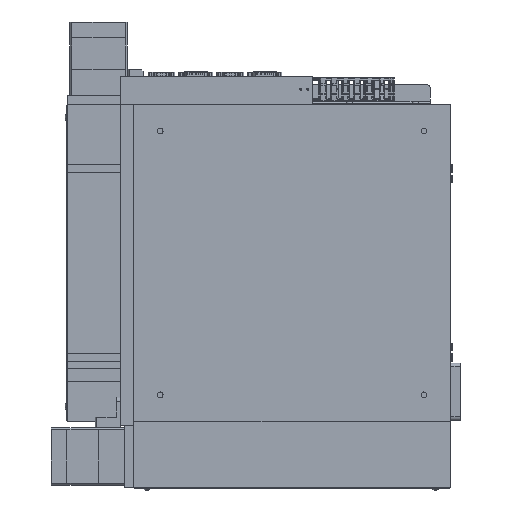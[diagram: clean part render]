
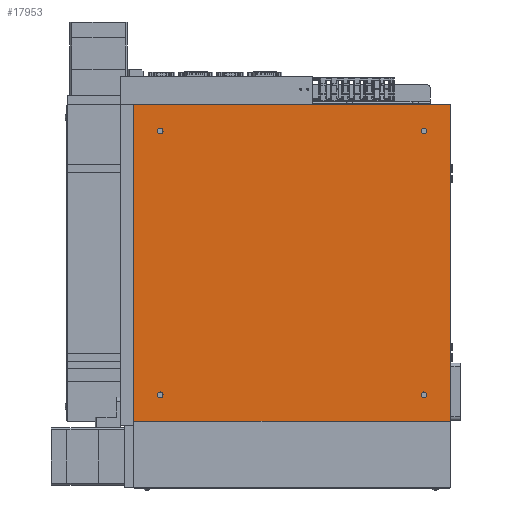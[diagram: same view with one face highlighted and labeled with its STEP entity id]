
A CAD part, front view. The second image highlights one B-rep face of the part: STEP entity #17953.
In plain terms, the highlighted planar face has unit normal (0, -1, 0).
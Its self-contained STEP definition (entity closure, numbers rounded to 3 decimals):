
#887 = DIRECTION ( 'NONE',  ( 0., 1., 0. ) ) ;
#1692 = FACE_BOUND ( 'NONE', #1725, .T. ) ;
#1725 = EDGE_LOOP ( 'NONE', ( #73610, #55872 ) ) ;
#2121 = CARTESIAN_POINT ( 'NONE',  ( -180., 0., -180. ) ) ;
#2720 = EDGE_LOOP ( 'NONE', ( #84886, #79170 ) ) ;
#3674 = DIRECTION ( 'NONE',  ( 0., 0., 1. ) ) ;
#3834 = AXIS2_PLACEMENT_3D ( 'NONE', #27263, #70763, #6737 ) ;
#4120 = AXIS2_PLACEMENT_3D ( 'NONE', #74239, #10483, #88584 ) ;
#4725 = PLANE ( 'NONE',  #67693 ) ;
#5030 = DIRECTION ( 'NONE',  ( 0., 1., 0. ) ) ;
#5103 = FACE_BOUND ( 'NONE', #2720, .T. ) ;
#5760 = EDGE_CURVE ( 'NONE', #91108, #53509, #18324, .T. ) ;
#6737 = DIRECTION ( 'NONE',  ( 0., 0., 1. ) ) ;
#8602 = ORIENTED_EDGE ( 'NONE', *, *, #57970, .F. ) ;
#10483 = DIRECTION ( 'NONE',  ( 0., 1., 0. ) ) ;
#12088 = VECTOR ( 'NONE', #73025, 1000. ) ;
#14625 = CARTESIAN_POINT ( 'NONE',  ( -150., 0., -150. ) ) ;
#16322 = VERTEX_POINT ( 'NONE', #57330 ) ;
#16339 = EDGE_LOOP ( 'NONE', ( #61210, #24141, #8602, #73705 ) ) ;
#16678 = CARTESIAN_POINT ( 'NONE',  ( 180., 0., -180. ) ) ;
#17213 = VECTOR ( 'NONE', #64508, 1000. ) ;
#17953 = ADVANCED_FACE ( 'NONE', ( #92240, #5103, #1692, #59913, #31863 ), #4725, .F. ) ;
#18324 = CIRCLE ( 'NONE', #64893, 3.3 ) ;
#21404 = EDGE_LOOP ( 'NONE', ( #38767, #58356 ) ) ;
#21938 = CARTESIAN_POINT ( 'NONE',  ( 150., 0., -150. ) ) ;
#21991 = CIRCLE ( 'NONE', #78274, 3.3 ) ;
#24141 = ORIENTED_EDGE ( 'NONE', *, *, #37797, .F. ) ;
#27263 = CARTESIAN_POINT ( 'NONE',  ( -150., 0., -150. ) ) ;
#27421 = VECTOR ( 'NONE', #39380, 1000. ) ;
#27549 = AXIS2_PLACEMENT_3D ( 'NONE', #40841, #69592, #33931 ) ;
#28190 = DIRECTION ( 'NONE',  ( 0., 1., 0. ) ) ;
#28450 = AXIS2_PLACEMENT_3D ( 'NONE', #21938, #28190, #49521 ) ;
#29985 = CARTESIAN_POINT ( 'NONE',  ( 150., 0., -150. ) ) ;
#31249 = EDGE_CURVE ( 'NONE', #45726, #74349, #53663, .T. ) ;
#31522 = ORIENTED_EDGE ( 'NONE', *, *, #5760, .T. ) ;
#31863 = FACE_OUTER_BOUND ( 'NONE', #16339, .T. ) ;
#32231 = LINE ( 'NONE', #2121, #12088 ) ;
#33022 = CIRCLE ( 'NONE', #28450, 3.3 ) ;
#33127 = VERTEX_POINT ( 'NONE', #16678 ) ;
#33931 = DIRECTION ( 'NONE',  ( 0., 0., 1. ) ) ;
#34437 = EDGE_CURVE ( 'NONE', #90949, #57998, #87465, .T. ) ;
#35730 = CARTESIAN_POINT ( 'NONE',  ( 150., 0., 150. ) ) ;
#35894 = CARTESIAN_POINT ( 'NONE',  ( -150., 0., 146.7 ) ) ;
#37797 = EDGE_CURVE ( 'NONE', #33127, #45726, #32231, .T. ) ;
#38131 = DIRECTION ( 'NONE',  ( 0., 1., 0. ) ) ;
#38767 = ORIENTED_EDGE ( 'NONE', *, *, #51781, .T. ) ;
#39152 = AXIS2_PLACEMENT_3D ( 'NONE', #14625, #887, #50899 ) ;
#39380 = DIRECTION ( 'NONE',  ( 0., 0., -1. ) ) ;
#40281 = CARTESIAN_POINT ( 'NONE',  ( -150., 0., 153.3 ) ) ;
#40841 = CARTESIAN_POINT ( 'NONE',  ( -150., 0., 150. ) ) ;
#45726 = VERTEX_POINT ( 'NONE', #86467 ) ;
#46200 = VERTEX_POINT ( 'NONE', #70769 ) ;
#46231 = EDGE_CURVE ( 'NONE', #82679, #65896, #33022, .T. ) ;
#47758 = CARTESIAN_POINT ( 'NONE',  ( 180., 0., -180. ) ) ;
#47803 = CARTESIAN_POINT ( 'NONE',  ( 0., 0., 0. ) ) ;
#49521 = DIRECTION ( 'NONE',  ( 0., 0., 1. ) ) ;
#49890 = CIRCLE ( 'NONE', #39152, 3.3 ) ;
#50121 = DIRECTION ( 'NONE',  ( 0., 1., 0. ) ) ;
#50899 = DIRECTION ( 'NONE',  ( 0., 0., 1. ) ) ;
#51781 = EDGE_CURVE ( 'NONE', #57998, #90949, #86991, .T. ) ;
#52204 = DIRECTION ( 'NONE',  ( 0., 0., 1. ) ) ;
#53144 = EDGE_CURVE ( 'NONE', #46200, #16322, #49890, .T. ) ;
#53509 = VERTEX_POINT ( 'NONE', #64556 ) ;
#53663 = LINE ( 'NONE', #86743, #59336 ) ;
#55872 = ORIENTED_EDGE ( 'NONE', *, *, #85991, .T. ) ;
#57330 = CARTESIAN_POINT ( 'NONE',  ( -150., 0., -146.7 ) ) ;
#57970 = EDGE_CURVE ( 'NONE', #91520, #33127, #71080, .T. ) ;
#57998 = VERTEX_POINT ( 'NONE', #40281 ) ;
#58267 = DIRECTION ( 'NONE',  ( 0., 0., 1. ) ) ;
#58356 = ORIENTED_EDGE ( 'NONE', *, *, #34437, .T. ) ;
#58616 = EDGE_CURVE ( 'NONE', #16322, #46200, #87653, .T. ) ;
#59266 = CIRCLE ( 'NONE', #4120, 3.3 ) ;
#59336 = VECTOR ( 'NONE', #65818, 1000. ) ;
#59796 = LINE ( 'NONE', #63879, #17213 ) ;
#59913 = FACE_BOUND ( 'NONE', #73968, .T. ) ;
#61210 = ORIENTED_EDGE ( 'NONE', *, *, #31249, .F. ) ;
#63879 = CARTESIAN_POINT ( 'NONE',  ( -180., 0., 180. ) ) ;
#64508 = DIRECTION ( 'NONE',  ( 1., 0., 0. ) ) ;
#64556 = CARTESIAN_POINT ( 'NONE',  ( 150., 0., 153.3 ) ) ;
#64893 = AXIS2_PLACEMENT_3D ( 'NONE', #35730, #50121, #58267 ) ;
#65818 = DIRECTION ( 'NONE',  ( 0., 0., 1. ) ) ;
#65896 = VERTEX_POINT ( 'NONE', #91122 ) ;
#65925 = CARTESIAN_POINT ( 'NONE',  ( 150., 0., -146.7 ) ) ;
#67693 = AXIS2_PLACEMENT_3D ( 'NONE', #47803, #5030, #90006 ) ;
#69592 = DIRECTION ( 'NONE',  ( 0., 1., 0. ) ) ;
#70763 = DIRECTION ( 'NONE',  ( 0., 1., 0. ) ) ;
#70769 = CARTESIAN_POINT ( 'NONE',  ( -150., 0., -153.3 ) ) ;
#71080 = LINE ( 'NONE', #47758, #27421 ) ;
#73025 = DIRECTION ( 'NONE',  ( -1., 0., 0. ) ) ;
#73610 = ORIENTED_EDGE ( 'NONE', *, *, #46231, .T. ) ;
#73705 = ORIENTED_EDGE ( 'NONE', *, *, #83556, .F. ) ;
#73968 = EDGE_LOOP ( 'NONE', ( #88031, #31522 ) ) ;
#74239 = CARTESIAN_POINT ( 'NONE',  ( 150., 0., 150. ) ) ;
#74349 = VERTEX_POINT ( 'NONE', #83503 ) ;
#74465 = AXIS2_PLACEMENT_3D ( 'NONE', #82384, #89881, #3674 ) ;
#78274 = AXIS2_PLACEMENT_3D ( 'NONE', #29985, #38131, #52204 ) ;
#79170 = ORIENTED_EDGE ( 'NONE', *, *, #53144, .T. ) ;
#79312 = CARTESIAN_POINT ( 'NONE',  ( 150., 0., 146.7 ) ) ;
#80369 = EDGE_CURVE ( 'NONE', #53509, #91108, #59266, .T. ) ;
#82384 = CARTESIAN_POINT ( 'NONE',  ( -150., 0., 150. ) ) ;
#82679 = VERTEX_POINT ( 'NONE', #65925 ) ;
#83503 = CARTESIAN_POINT ( 'NONE',  ( -180., 0., 180. ) ) ;
#83556 = EDGE_CURVE ( 'NONE', #74349, #91520, #59796, .T. ) ;
#84842 = CARTESIAN_POINT ( 'NONE',  ( 180., 0., 180. ) ) ;
#84886 = ORIENTED_EDGE ( 'NONE', *, *, #58616, .T. ) ;
#85991 = EDGE_CURVE ( 'NONE', #65896, #82679, #21991, .T. ) ;
#86467 = CARTESIAN_POINT ( 'NONE',  ( -180., 0., -180. ) ) ;
#86743 = CARTESIAN_POINT ( 'NONE',  ( -180., 0., -180. ) ) ;
#86991 = CIRCLE ( 'NONE', #27549, 3.3 ) ;
#87465 = CIRCLE ( 'NONE', #74465, 3.3 ) ;
#87653 = CIRCLE ( 'NONE', #3834, 3.3 ) ;
#88031 = ORIENTED_EDGE ( 'NONE', *, *, #80369, .T. ) ;
#88584 = DIRECTION ( 'NONE',  ( 0., 0., 1. ) ) ;
#89881 = DIRECTION ( 'NONE',  ( 0., 1., 0. ) ) ;
#90006 = DIRECTION ( 'NONE',  ( 0., 0., 1. ) ) ;
#90949 = VERTEX_POINT ( 'NONE', #35894 ) ;
#91108 = VERTEX_POINT ( 'NONE', #79312 ) ;
#91122 = CARTESIAN_POINT ( 'NONE',  ( 150., 0., -153.3 ) ) ;
#91520 = VERTEX_POINT ( 'NONE', #84842 ) ;
#92240 = FACE_BOUND ( 'NONE', #21404, .T. ) ;
